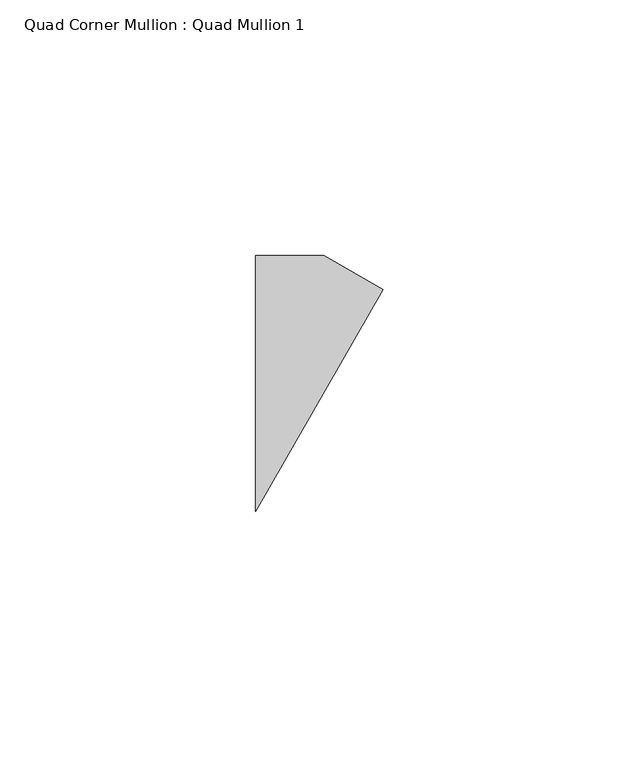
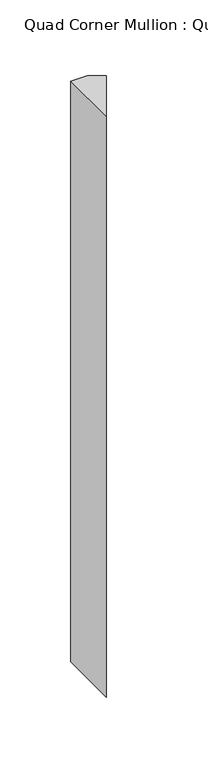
"""IFC4 building model written with IfcOpenShell, lengths in millimetres: member geometry, Quad Corner Mullion : Quad Mullion 1."""

from ifc_helpers import new_model, si_unit, frame, origin, place, context, project, spatial, polyline, outline, extrude, source, transform, mapped, element, save


def quad_corner_mullion_quad_mullion_1_b87661ff(model_context):
    return source(origin(), model_context, "Body", "SweptSolid", [
        extrude(outline(polyline([(18.2517715, 18.3425598), (-6.6765759, -25.0), (-6.6765759, 25.0), (6.6765759, 25.0), (18.2517715, 18.3425598)])), frame((0.0, 0.0, -500.0), z_axis=(0.0, 0.0, 1.0), x_axis=(1.0, 0.0, 0.0)), (0.0, 0.0, 1.0), 500.0),
    ])


if __name__ == "__main__":
    model = new_model("IFC4")
    model_context = context("Model", 3, world=origin())
    ifc_project = project(units=[si_unit("LENGTHUNIT", "METRE", prefix="MILLI")], contexts=[model_context])
    site = spatial("IfcSite", under=ifc_project)
    building = spatial("IfcBuilding", under=site)
    placement = place(None, origin())
    quad_corner_mullion_quad_mullion_1_shape = quad_corner_mullion_quad_mullion_1_b87661ff(model_context)
    element("IfcMember", 1, ObjectType="Quad Corner Mullion : Quad Mullion 1", at=placement, inside=building, context=model_context, shape_type="MappedRepresentation", body=[
        mapped(quad_corner_mullion_quad_mullion_1_shape, transform((0.0, 0.0, 0.0), x_axis=(1.0, 0.0, 0.0), y_axis=(0.0, 1.0, 0.0), z_axis=(0.0, 0.0, 1.0))),
    ])
    save(model, "model.ifc")
